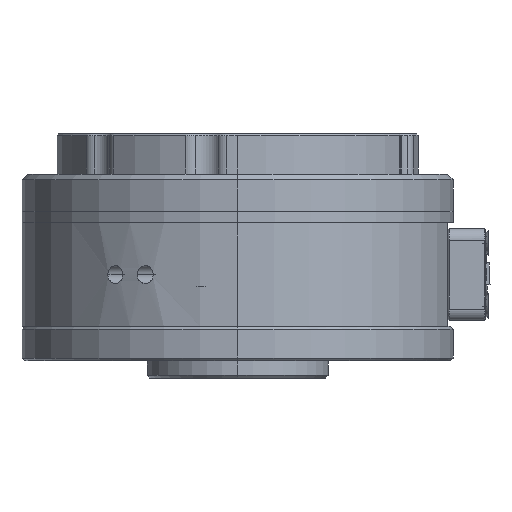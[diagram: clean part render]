
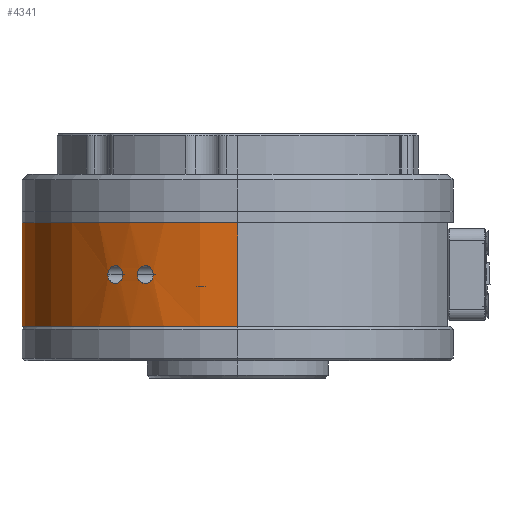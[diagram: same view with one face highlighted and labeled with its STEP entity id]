
A CAD part, left-side view. The second image highlights one B-rep face of the part: STEP entity #4341.
In plain terms, the highlighted cylindrical face has radius 37.5 mm (diameter 75 mm), a partial arc.
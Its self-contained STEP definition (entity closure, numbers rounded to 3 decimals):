
#2848=AXIS2_PLACEMENT_3D('Circle Axis2P3D',#2846,#2847,$) ;
#4230=AXIS2_PLACEMENT_3D('Cylinder Axis2P3D',#4227,#4228,#4229) ;
#4253=AXIS2_PLACEMENT_3D('Circle Axis2P3D',#4251,#4252,$) ;
#2843=CARTESIAN_POINT('Vertex',(-37.5,0.,-9.)) ;
#2846=CARTESIAN_POINT('Axis2P3D Location',(0.,0.,-9.)) ;
#2850=CARTESIAN_POINT('Vertex',(37.5,0.,-9.)) ;
#4227=CARTESIAN_POINT('Axis2P3D Location',(0.,0.,-3.6)) ;
#4236=CARTESIAN_POINT('Vertex',(-37.5,0.,9.)) ;
#4239=CARTESIAN_POINT('Line Origine',(-37.5,0.,-3.6)) ;
#4251=CARTESIAN_POINT('Axis2P3D Location',(0.,0.,9.)) ;
#4255=CARTESIAN_POINT('Vertex',(37.5,0.,9.)) ;
#4258=CARTESIAN_POINT('Line Origine',(37.5,0.,-3.6)) ;
#4270=CARTESIAN_POINT('Control Point',(-34.511,14.671,0.)) ;
#4271=CARTESIAN_POINT('Control Point',(-34.511,14.671,0.397)) ;
#4272=CARTESIAN_POINT('Control Point',(-34.461,14.789,0.795)) ;
#4273=CARTESIAN_POINT('Control Point',(-34.36,15.026,1.136)) ;
#4274=CARTESIAN_POINT('Control Point',(-34.151,15.499,1.489)) ;
#4275=CARTESIAN_POINT('Control Point',(-33.897,16.042,1.568)) ;
#4276=CARTESIAN_POINT('Control Point',(-33.809,16.225,1.563)) ;
#4277=CARTESIAN_POINT('Control Point',(-33.558,16.742,1.452)) ;
#4278=CARTESIAN_POINT('Control Point',(-33.339,17.173,1.088)) ;
#4279=CARTESIAN_POINT('Control Point',(-33.231,17.378,0.757)) ;
#4280=CARTESIAN_POINT('Control Point',(-33.177,17.48,0.379)) ;
#4281=CARTESIAN_POINT('Control Point',(-33.177,17.48,0.)) ;
#4282=CARTESIAN_POINT('Vertex',(-34.511,14.671,0.)) ;
#4284=CARTESIAN_POINT('Vertex',(-33.177,17.48,0.)) ;
#4288=CARTESIAN_POINT('Control Point',(-34.511,14.671,0.)) ;
#4289=CARTESIAN_POINT('Control Point',(-34.511,14.671,-0.397)) ;
#4290=CARTESIAN_POINT('Control Point',(-34.461,14.789,-0.795)) ;
#4291=CARTESIAN_POINT('Control Point',(-34.36,15.026,-1.136)) ;
#4292=CARTESIAN_POINT('Control Point',(-34.151,15.499,-1.489)) ;
#4293=CARTESIAN_POINT('Control Point',(-33.897,16.042,-1.568)) ;
#4294=CARTESIAN_POINT('Control Point',(-33.809,16.225,-1.563)) ;
#4295=CARTESIAN_POINT('Control Point',(-33.558,16.742,-1.452)) ;
#4296=CARTESIAN_POINT('Control Point',(-33.339,17.173,-1.088)) ;
#4297=CARTESIAN_POINT('Control Point',(-33.231,17.378,-0.757)) ;
#4298=CARTESIAN_POINT('Control Point',(-33.177,17.48,-0.379)) ;
#4299=CARTESIAN_POINT('Control Point',(-33.177,17.48,0.)) ;
#4306=CARTESIAN_POINT('Control Point',(-29.961,22.552,0.)) ;
#4307=CARTESIAN_POINT('Control Point',(-29.961,22.552,-0.397)) ;
#4308=CARTESIAN_POINT('Control Point',(-30.038,22.449,-0.795)) ;
#4309=CARTESIAN_POINT('Control Point',(-30.193,22.244,-1.136)) ;
#4310=CARTESIAN_POINT('Control Point',(-30.498,21.826,-1.489)) ;
#4311=CARTESIAN_POINT('Control Point',(-30.841,21.334,-1.568)) ;
#4312=CARTESIAN_POINT('Control Point',(-30.956,21.167,-1.563)) ;
#4313=CARTESIAN_POINT('Control Point',(-31.278,20.691,-1.452)) ;
#4314=CARTESIAN_POINT('Control Point',(-31.541,20.286,-1.088)) ;
#4315=CARTESIAN_POINT('Control Point',(-31.665,20.09,-0.757)) ;
#4316=CARTESIAN_POINT('Control Point',(-31.727,19.992,-0.379)) ;
#4317=CARTESIAN_POINT('Control Point',(-31.727,19.992,0.)) ;
#4318=CARTESIAN_POINT('Vertex',(-29.961,22.552,0.)) ;
#4320=CARTESIAN_POINT('Vertex',(-31.727,19.992,0.)) ;
#4324=CARTESIAN_POINT('Control Point',(-29.961,22.552,0.)) ;
#4325=CARTESIAN_POINT('Control Point',(-29.961,22.552,0.397)) ;
#4326=CARTESIAN_POINT('Control Point',(-30.038,22.449,0.795)) ;
#4327=CARTESIAN_POINT('Control Point',(-30.193,22.244,1.136)) ;
#4328=CARTESIAN_POINT('Control Point',(-30.498,21.826,1.489)) ;
#4329=CARTESIAN_POINT('Control Point',(-30.841,21.334,1.568)) ;
#4330=CARTESIAN_POINT('Control Point',(-30.956,21.167,1.563)) ;
#4331=CARTESIAN_POINT('Control Point',(-31.278,20.691,1.452)) ;
#4332=CARTESIAN_POINT('Control Point',(-31.541,20.286,1.088)) ;
#4333=CARTESIAN_POINT('Control Point',(-31.665,20.09,0.757)) ;
#4334=CARTESIAN_POINT('Control Point',(-31.727,19.992,0.379)) ;
#4335=CARTESIAN_POINT('Control Point',(-31.727,19.992,0.)) ;
#2847=DIRECTION('Axis2P3D Direction',(0.,0.,-1.)) ;
#4228=DIRECTION('Axis2P3D Direction',(0.,0.,-1.)) ;
#4229=DIRECTION('Axis2P3D XDirection',(1.,0.,0.)) ;
#4240=DIRECTION('Vector Direction',(0.,0.,-1.)) ;
#4252=DIRECTION('Axis2P3D Direction',(0.,0.,-1.)) ;
#4259=DIRECTION('Vector Direction',(0.,0.,-1.)) ;
#4241=VECTOR('Line Direction',#4240,1.) ;
#4260=VECTOR('Line Direction',#4259,1.) ;
#4264=ORIENTED_EDGE('',*,*,#4243,.F.) ;
#4265=ORIENTED_EDGE('',*,*,#4257,.F.) ;
#4266=ORIENTED_EDGE('',*,*,#4262,.T.) ;
#4267=ORIENTED_EDGE('',*,*,#2852,.F.) ;
#4302=ORIENTED_EDGE('',*,*,#4286,.F.) ;
#4303=ORIENTED_EDGE('',*,*,#4300,.T.) ;
#4338=ORIENTED_EDGE('',*,*,#4322,.F.) ;
#4339=ORIENTED_EDGE('',*,*,#4336,.T.) ;
#4304=FACE_BOUND('',#4301,.T.) ;
#4340=FACE_BOUND('',#4337,.T.) ;
#4341=ADVANCED_FACE('\X2\96F64EF651E04F554F53\X0\',(#4268,#4304,#4340),#4231,.T.) ;
#4269=B_SPLINE_CURVE_WITH_KNOTS('',5,(#4270,#4271,#4272,#4273,#4274,#4275,#4276,#4277,#4278,#4279,#4280,#4281),.UNSPECIFIED.,.F.,.U.,(6,3,3,6),(0.,2.81,4.221,6.898),.UNSPECIFIED.) ;
#4287=B_SPLINE_CURVE_WITH_KNOTS('',5,(#4288,#4289,#4290,#4291,#4292,#4293,#4294,#4295,#4296,#4297,#4298,#4299),.UNSPECIFIED.,.F.,.U.,(6,3,3,6),(0.,2.81,4.221,6.898),.UNSPECIFIED.) ;
#4305=B_SPLINE_CURVE_WITH_KNOTS('',5,(#4306,#4307,#4308,#4309,#4310,#4311,#4312,#4313,#4314,#4315,#4316,#4317),.UNSPECIFIED.,.F.,.U.,(6,3,3,6),(0.,2.81,4.221,6.898),.UNSPECIFIED.) ;
#4323=B_SPLINE_CURVE_WITH_KNOTS('',5,(#4324,#4325,#4326,#4327,#4328,#4329,#4330,#4331,#4332,#4333,#4334,#4335),.UNSPECIFIED.,.F.,.U.,(6,3,3,6),(0.,2.81,4.221,6.898),.UNSPECIFIED.) ;
#2849=CIRCLE('generated circle',#2848,37.5) ;
#4254=CIRCLE('generated circle',#4253,37.5) ;
#4231=CYLINDRICAL_SURFACE('generated cylinder',#4230,37.5) ;
#2852=EDGE_CURVE('',#2844,#2851,#2849,.T.) ;
#4243=EDGE_CURVE('',#4237,#2844,#4242,.T.) ;
#4257=EDGE_CURVE('',#4256,#4237,#4254,.F.) ;
#4262=EDGE_CURVE('',#4256,#2851,#4261,.T.) ;
#4286=EDGE_CURVE('',#4283,#4285,#4269,.T.) ;
#4300=EDGE_CURVE('',#4283,#4285,#4287,.T.) ;
#4322=EDGE_CURVE('',#4319,#4321,#4305,.T.) ;
#4336=EDGE_CURVE('',#4319,#4321,#4323,.T.) ;
#4263=EDGE_LOOP('',(#4264,#4265,#4266,#4267)) ;
#4301=EDGE_LOOP('',(#4302,#4303)) ;
#4337=EDGE_LOOP('',(#4338,#4339)) ;
#4268=FACE_OUTER_BOUND('',#4263,.T.) ;
#4242=LINE('Line',#4239,#4241) ;
#4261=LINE('Line',#4258,#4260) ;
#2844=VERTEX_POINT('',#2843) ;
#2851=VERTEX_POINT('',#2850) ;
#4237=VERTEX_POINT('',#4236) ;
#4256=VERTEX_POINT('',#4255) ;
#4283=VERTEX_POINT('',#4282) ;
#4285=VERTEX_POINT('',#4284) ;
#4319=VERTEX_POINT('',#4318) ;
#4321=VERTEX_POINT('',#4320) ;
